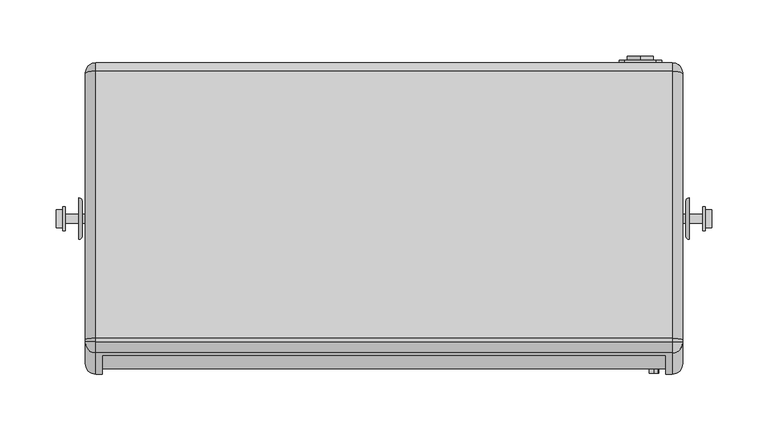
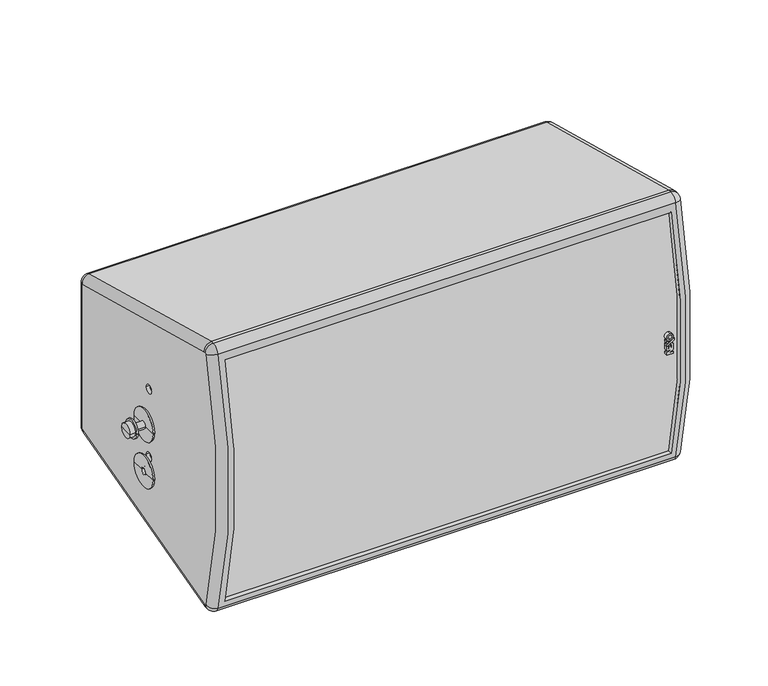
"""IFC4 building model written with IfcOpenShell, lengths in millimetres: proxy geometry, ePS10-HBRK535-SHM : ePS10-HBRK535-SHM."""

from ifc_helpers import new_model, si_unit, point, frame, frame_2d, origin, place, context, project, spatial, polyline, circle_curve, ellipse_curve, trimmed, segment, composite_curve, outline, extrude, source, transform, mapped, element, save
from ifc_brep_helpers import plane_surface, cylinder_surface, revolved_surface, advanced_brep


def generic_models_ff4268a7(model_context):
    return source(origin(), model_context, "Body", "SolidModel", [
        extrude(outline(polyline([(234.5649064, 236.0590531), (234.5649064, 243.3388202), (236.4572736, 243.3388202), (236.4572736, 239.1734899), (239.2323706, 243.3388202), (246.0832803, 243.3388202), (247.4018526, 241.463849), (246.3384755, 239.8643156), (244.9689329, 241.7361557), (241.9353036, 241.7361557), (241.9353036, 240.4818684), (244.2184164, 240.4818684), (244.2184164, 238.8791381), (241.9353036, 238.8791381), (241.9353036, 237.6626349), (244.3423782, 237.6626349), (244.3423782, 236.8626349), (243.8087195, 236.0599046), (239.5403435, 236.0599046), (239.5306519, 240.5099607), (236.5913857, 236.0590531), (234.5649064, 236.0590531)])), frame((0.0, -137.5, 0.0), z_axis=(0.0, 1.0, 0.0), x_axis=(0.0, 0.0, 1.0)), (0.0, 0.0, 1.0), 5.0),
        extrude(outline(polyline([(244.4500346, 236.0590531), (249.9286538, 244.3), (252.1218565, 244.3), (246.6432373, 236.0590531), (244.4500346, 236.0590531)])), frame((0.0, -137.5, 0.0), z_axis=(0.0, 1.0, 0.0), x_axis=(0.0, 0.0, 1.0)), (0.0, 0.0, 1.0), 5.0),
        extrude(outline(polyline([(251.1906687, 236.0590531), (248.8638781, 236.0590531), (248.1160838, 237.3270101), (249.2003096, 238.957904), (251.1906687, 236.0590531)])), frame((0.0, -137.5, 0.0), z_axis=(0.0, 1.0, 0.0), x_axis=(0.0, 0.0, 1.0)), (0.0, 0.0, 1.0), 5.0),
        extrude(outline(composite_curve([segment(trimmed(circle_curve(frame_2d((254.5762799, 239.7298911)), 3.9406238), [point((250.635656, 239.7298911))], [point((258.5169037, 239.7298911))], False, "CARTESIAN"), True, "CONTINUOUS"), segment(trimmed(circle_curve(frame_2d((254.5762799, 239.7298911)), 3.9406238), [point((258.5169037, 239.7298911))], [point((250.635656, 239.7298911))], False, "CARTESIAN"), True, "CONTINUOUS")], self_intersect=False), holes=[composite_curve([segment(trimmed(circle_curve(frame_2d((254.5762799, 239.7298911)), 2.0681078), [point((252.5081721, 239.7298911))], [point((256.6443876, 239.7298911))], True, "CARTESIAN"), True, "CONTINUOUS"), segment(trimmed(circle_curve(frame_2d((254.5762799, 239.7298911)), 2.0681078), [point((256.6443876, 239.7298911))], [point((252.5081721, 239.7298911))], True, "CARTESIAN"), True, "CONTINUOUS")], self_intersect=False)]), frame((0.0, -137.5, 0.0), z_axis=(0.0, 1.0, 0.0), x_axis=(0.0, 0.0, 1.0)), (0.0, 0.0, 1.0), 5.0),
        extrude(outline(composite_curve([segment(trimmed(circle_curve(frame_2d((276.5012591, 228.0)), 11.4515227), [point((287.9527818, 228.0))], [point((265.0497365, 228.0))], False, "CARTESIAN"), True, "CONTINUOUS"), segment(trimmed(circle_curve(frame_2d((276.5012591, 228.0)), 11.4515227), [point((265.0497365, 228.0))], [point((287.9527818, 228.0))], False, "CARTESIAN"), True, "CONTINUOUS")], self_intersect=False), holes=[composite_curve([segment(trimmed(circle_curve(frame_2d((276.5012591, 228.0)), 5.0), [point((281.5012591, 228.0))], [point((271.5012591, 228.0))], True, "CARTESIAN"), True, "CONTINUOUS"), segment(trimmed(circle_curve(frame_2d((276.5012591, 228.0)), 5.0), [point((271.5012591, 228.0))], [point((281.5012591, 228.0))], True, "CARTESIAN"), True, "CONTINUOUS")], self_intersect=False)]), frame((0.0, 141.0947354, 0.0), z_axis=(0.0, 1.0, 0.0), x_axis=(0.0, 0.0, 1.0)), (0.0, 0.0, 1.0), 3.4052646),
        extrude(outline(composite_curve([segment(trimmed(circle_curve(frame_2d((216.5012591, 228.0)), 11.4515227), [point((227.9527818, 228.0))], [point((205.0497365, 228.0))], False, "CARTESIAN"), True, "CONTINUOUS"), segment(trimmed(circle_curve(frame_2d((216.5012591, 228.0)), 11.4515227), [point((205.0497365, 228.0))], [point((227.9527818, 228.0))], False, "CARTESIAN"), True, "CONTINUOUS")], self_intersect=False), holes=[composite_curve([segment(trimmed(circle_curve(frame_2d((216.5012591, 228.0)), 5.0), [point((221.5012591, 228.0))], [point((211.5012591, 228.0))], True, "CARTESIAN"), True, "CONTINUOUS"), segment(trimmed(circle_curve(frame_2d((216.5012591, 228.0)), 5.0), [point((211.5012591, 228.0))], [point((221.5012591, 228.0))], True, "CARTESIAN"), True, "CONTINUOUS")], self_intersect=False)]), frame((0.0, 141.0947354, 0.0), z_axis=(0.0, 1.0, 0.0), x_axis=(0.0, 0.0, 1.0)), (0.0, 0.0, 1.0), 3.4052646),
        extrude(outline(composite_curve([segment(polyline([(299.5012591, 209.0), (193.5012591, 209.0)]), True, "CONTINUOUS"), segment(trimmed(circle_curve(frame_2d((193.5012591, 214.0)), 5.0), [point((193.5012591, 209.0))], [point((188.5012591, 214.0))], False, "CARTESIAN"), True, "CONTINUOUS"), segment(polyline([(188.5012591, 214.0), (188.5012591, 242.0)]), True, "CONTINUOUS"), segment(trimmed(circle_curve(frame_2d((193.5012591, 242.0)), 5.0), [point((188.5012591, 242.0))], [point((193.5012591, 247.0))], False, "CARTESIAN"), True, "CONTINUOUS"), segment(polyline([(193.5012591, 247.0), (299.5012591, 247.0)]), True, "CONTINUOUS"), segment(trimmed(circle_curve(frame_2d((299.5012591, 242.0)), 5.0), [point((299.5012591, 247.0))], [point((304.5012591, 242.0))], False, "CARTESIAN"), True, "CONTINUOUS"), segment(polyline([(304.5012591, 242.0), (304.5012591, 214.0)]), True, "CONTINUOUS"), segment(trimmed(circle_curve(frame_2d((299.5012591, 214.0)), 5.0), [point((304.5012591, 214.0))], [point((299.5012591, 209.0))], False, "CARTESIAN"), True, "CONTINUOUS")], self_intersect=False)), frame((0.0, 138.5947354, 0.0), z_axis=(0.0, 1.0, 0.0), x_axis=(0.0, 0.0, 1.0)), (0.0, 0.0, 1.0), 2.5),
        advanced_brep(
        [(-265.5, 129.6030121, 161.8288368), (-265.5, 128.8556966, 160.8549164), (-265.5, -107.6142599, 97.4929825), (-265.5, -109.6140822, 97.4929825), (-265.5, -110.5829021, 98.2219567), (-265.5, -110.5829021, 394.7805616), (-265.5, -109.6140822, 395.5095358), (-265.5, -107.6142599, 395.5095358), (-265.5, 128.8556966, 332.1476019), (-265.5, 129.6030121, 331.1736814), (-265.5, -5.0, 246.5012591), (-265.5, 5.0, 246.5012591), (-265.5, -5.0, 206.5012591), (-265.5, 5.0, 206.5012591), (-265.5, -5.0, 286.5012591), (-265.5, 5.0, 286.5012591), (265.5, 129.5947354, 331.1736814), (265.5, 128.8535545, 332.1396073), (265.5, -107.6153496, 395.5012591), (265.5, -109.6140822, 395.5012591), (265.5, -110.5749494, 394.7782689), (265.5, -110.5749494, 98.2242494), (265.5, -109.6140822, 97.5012591), (265.5, -107.6153496, 97.5012591), (265.5, 128.8535545, 160.862911), (265.5, 129.5947354, 161.8288368), (265.5, 5.0, 246.5012591), (265.5, -5.0, 246.5012591), (265.5, 5.0, 206.5012591), (265.5, -5.0, 206.5012591), (265.5, 5.0, 286.5012591), (265.5, -5.0, 286.5012591), (-261.5, 5.0, 246.5012591), (-261.5, -5.0, 246.5012591), (-261.5, 5.0, 206.5012591), (-261.5, -5.0, 206.5012591), (-261.5, 5.0, 286.5012591), (-261.5, -5.0, 286.5012591), (-250.5, -121.4005495, 103.5012591), (-250.5, -116.216713, 103.5012591), (-250.5, -116.216713, 389.5012591), (-250.5, -121.4005495, 389.5012591), (250.5, -121.4005495, 389.5012591), (250.5, -116.216713, 389.5012591), (250.5, -116.216713, 103.5012591), (250.5, -121.4005495, 103.5012591), (261.5, 5.0, 246.5012591), (261.5, -5.0, 246.5012591), (261.5, 5.0, 206.5012591), (261.5, -5.0, 206.5012591), (261.5, 5.0, 286.5012591), (261.5, -5.0, 286.5012591), (0.0, 132.5, 217.1579769), (0.0, 132.5, 205.8446565), (0.0, 132.5, 287.1579769), (0.0, 132.5, 275.8446565), (-70.0, 132.5, 217.1579769), (-70.0, 132.5, 205.8446565), (0.0, 138.5947354, 205.8446565), (0.0, 138.5947354, 217.1579769), (0.0, 138.5947354, 275.8446565), (0.0, 138.5947354, 287.1579769), (-256.5082766, 138.5947354, 161.8288368), (-256.5082766, 138.5947354, 331.1736814), (256.5, 138.5947354, 331.1736814), (256.5, 138.5947354, 161.8288368), (-70.0, 138.5947354, 205.8446565), (-70.0, 138.5947354, 217.1579769), (-256.5082766, 131.1829259, 152.1695786), (256.5, 131.1829259, 152.1695786), (-256.5082766, -106.4304771, 88.5012591), (256.5, -106.4304771, 88.5012591), (-256.5082766, -109.6140822, 88.5012591), (256.5, -109.6140822, 88.5012591), (-256.5082766, -119.2227534, 397.2713564), (-256.5082766, -119.2227534, 95.7311619), (256.500006, -119.2227534, 95.7311619), (256.5, -119.2227534, 397.2713564), (-256.5082766, -106.4304771, 404.5012591), (-256.5082766, -109.6140822, 404.5012591), (256.5, -109.6140822, 404.5012591), (256.5, -106.4304771, 404.5012591), (-256.5082766, 131.1829259, 340.8329397), (256.5, 131.1829259, 340.8329397)],
        [
            (0, 1, circle_curve(frame((-265.5, 128.5947354, 161.8288368), z_axis=(-1.0, 0.0, 0.0), x_axis=(0.0, 1.0, 0.0)), 1.0082766)),
            (1, 2),
            (2, 3),
            (3, 4, circle_curve(frame((-265.5, -109.6140822, 98.5012591), z_axis=(-1.0, 0.0, 0.0), x_axis=(0.0, 0.0, -1.0)), 1.0082766)),
            (4, 5, circle_curve(frame((-265.5, 403.7553714, 246.5012591), z_axis=(-1.0, 0.0, 0.0), x_axis=(0.0, -0.9608671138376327, -0.2770097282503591)), 535.2855417)),
            (5, 6, circle_curve(frame((-265.5, -109.6140822, 394.5012591), z_axis=(-1.0, 0.0, 0.0), x_axis=(0.0, -0.9608671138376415, 0.2770097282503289)), 1.0082766)),
            (6, 7),
            (7, 8),
            (8, 9, circle_curve(frame((-265.5, 128.5947354, 331.1736814), z_axis=(-1.0, 0.0, 0.0), x_axis=(0.0, 0.2588190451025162, 0.9659258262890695)), 1.0082766)),
            (9, 0),
            (10, 11, circle_curve(frame((-265.5, 0.0, 246.5012591), z_axis=(1.0, 0.0, 0.0), x_axis=(0.0, -1.0, 0.0)), 5.0)),
            (11, 10, circle_curve(frame((-265.5, 0.0, 246.5012591), z_axis=(1.0, 0.0, 0.0), x_axis=(0.0, -1.0, 0.0)), 5.0)),
            (12, 13, circle_curve(frame((-265.5, 0.0, 206.5012591), z_axis=(1.0, 0.0, 0.0), x_axis=(0.0, -1.0, 0.0)), 5.0)),
            (13, 12, circle_curve(frame((-265.5, 0.0, 206.5012591), z_axis=(1.0, 0.0, 0.0), x_axis=(0.0, -1.0, 0.0)), 5.0)),
            (14, 15, circle_curve(frame((-265.5, 0.0, 286.5012591), z_axis=(1.0, 0.0, 0.0), x_axis=(0.0, -1.0, 0.0)), 5.0)),
            (15, 14, circle_curve(frame((-265.5, 0.0, 286.5012591), z_axis=(1.0, 0.0, 0.0), x_axis=(0.0, -1.0, 0.0)), 5.0)),
            (16, 17, circle_curve(frame((265.5, 128.5947354, 331.1736814), z_axis=(1.0, 0.0, 0.0), x_axis=(0.0, 1.0, 0.0)), 1.0)),
            (17, 18),
            (18, 19),
            (19, 20, circle_curve(frame((265.5, -109.6140822, 394.5012591), z_axis=(1.0, 0.0, 0.0), x_axis=(0.0, 0.0, 1.0)), 1.0)),
            (20, 21, circle_curve(frame((265.5, 403.7553714, 246.5012591), z_axis=(1.0, 0.0, 0.0), x_axis=(0.0, -0.9608671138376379, 0.27700972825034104)), 535.277265)),
            (21, 22, circle_curve(frame((265.5, -109.6140822, 98.5012591), z_axis=(1.0, 0.0, 0.0), x_axis=(0.0, -0.9608671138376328, -0.27700972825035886)), 1.0)),
            (22, 23),
            (23, 24),
            (24, 25, circle_curve(frame((265.5, 128.5947354, 161.8288368), z_axis=(1.0, 0.0, 0.0), x_axis=(0.0, 0.2588190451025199, -0.9659258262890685)), 1.0)),
            (25, 16),
            (26, 27, circle_curve(frame((265.5, 0.0, 246.5012591), z_axis=(-1.0, 0.0, 0.0), x_axis=(0.0, -1.0, 0.0)), 5.0)),
            (27, 26, circle_curve(frame((265.5, 0.0, 246.5012591), z_axis=(-1.0, 0.0, 0.0), x_axis=(0.0, -1.0, 0.0)), 5.0)),
            (28, 29, circle_curve(frame((265.5, 0.0, 206.5012591), z_axis=(-1.0, 0.0, 0.0), x_axis=(0.0, -1.0, 0.0)), 5.0)),
            (29, 28, circle_curve(frame((265.5, 0.0, 206.5012591), z_axis=(-1.0, 0.0, 0.0), x_axis=(0.0, -1.0, 0.0)), 5.0)),
            (30, 31, circle_curve(frame((265.5, 0.0, 286.5012591), z_axis=(-1.0, 0.0, 0.0), x_axis=(0.0, -1.0, 0.0)), 5.0)),
            (31, 30, circle_curve(frame((265.5, 0.0, 286.5012591), z_axis=(-1.0, 0.0, 0.0), x_axis=(0.0, -1.0, 0.0)), 5.0)),
            (32, 33, circle_curve(frame((-261.5, 0.0, 246.5012591), z_axis=(-1.0, 0.0, 0.0), x_axis=(0.0, -1.0, 0.0)), 5.0)),
            (33, 32, circle_curve(frame((-261.5, 0.0, 246.5012591), z_axis=(-1.0, 0.0, 0.0), x_axis=(0.0, -1.0, 0.0)), 5.0)),
            (34, 35, circle_curve(frame((-261.5, 0.0, 206.5012591), z_axis=(-1.0, 0.0, 0.0), x_axis=(0.0, -1.0, 0.0)), 5.0)),
            (35, 34, circle_curve(frame((-261.5, 0.0, 206.5012591), z_axis=(-1.0, 0.0, 0.0), x_axis=(0.0, -1.0, 0.0)), 5.0)),
            (36, 37, circle_curve(frame((-261.5, 0.0, 286.5012591), z_axis=(-1.0, 0.0, 0.0), x_axis=(0.0, -1.0, 0.0)), 5.0)),
            (37, 36, circle_curve(frame((-261.5, 0.0, 286.5012591), z_axis=(-1.0, 0.0, 0.0), x_axis=(0.0, -1.0, 0.0)), 5.0)),
            (32, 11),
            (10, 33),
            (34, 13),
            (12, 35),
            (36, 15),
            (14, 37),
            (38, 39),
            (39, 40, circle_curve(frame((-250.5, 403.7553714, 246.5012591), z_axis=(-1.0, 0.0, 0.0), x_axis=(0.0, 0.0, 1.0)), 539.277265)),
            (40, 41),
            (41, 38, circle_curve(frame((-250.5, 403.7553714, 246.5012591), z_axis=(1.0, 0.0, 0.0), x_axis=(0.0, 0.0, 1.0)), 544.277265)),
            (42, 43),
            (43, 44, circle_curve(frame((250.5, 403.7553714, 246.5012591), z_axis=(1.0, 0.0, 0.0), x_axis=(0.0, 0.0, 1.0)), 539.277265)),
            (44, 45),
            (45, 42, circle_curve(frame((250.5, 403.7553714, 246.5012591), z_axis=(-1.0, 0.0, 0.0), x_axis=(0.0, 0.0, 1.0)), 544.277265)),
            (46, 47, circle_curve(frame((261.5, 0.0, 246.5012591), z_axis=(1.0, 0.0, 0.0), x_axis=(0.0, -1.0, 0.0)), 5.0)),
            (47, 46, circle_curve(frame((261.5, 0.0, 246.5012591), z_axis=(1.0, 0.0, 0.0), x_axis=(0.0, -1.0, 0.0)), 5.0)),
            (48, 49, circle_curve(frame((261.5, 0.0, 206.5012591), z_axis=(1.0, 0.0, 0.0), x_axis=(0.0, -1.0, 0.0)), 5.0)),
            (49, 48, circle_curve(frame((261.5, 0.0, 206.5012591), z_axis=(1.0, 0.0, 0.0), x_axis=(0.0, -1.0, 0.0)), 5.0)),
            (50, 51, circle_curve(frame((261.5, 0.0, 286.5012591), z_axis=(1.0, 0.0, 0.0), x_axis=(0.0, -1.0, 0.0)), 5.0)),
            (51, 50, circle_curve(frame((261.5, 0.0, 286.5012591), z_axis=(1.0, 0.0, 0.0), x_axis=(0.0, -1.0, 0.0)), 5.0)),
            (47, 27),
            (26, 46),
            (49, 29),
            (28, 48),
            (51, 31),
            (30, 50),
            (52, 53, circle_curve(frame((0.0, 132.5, 211.5013167), z_axis=(0.0, 1.0, 0.0), x_axis=(0.0, 0.0, -1.0)), 5.6566602)),
            (53, 52, circle_curve(frame((0.0, 132.5, 211.5013167), z_axis=(0.0, 1.0, 0.0), x_axis=(0.0, 0.0, -1.0)), 5.6566602)),
            (54, 55, circle_curve(frame((0.0, 132.5, 281.5013167), z_axis=(0.0, 1.0, 0.0), x_axis=(0.0, 0.0, -1.0)), 5.6566602)),
            (55, 54, circle_curve(frame((0.0, 132.5, 281.5013167), z_axis=(0.0, 1.0, 0.0), x_axis=(0.0, 0.0, -1.0)), 5.6566602)),
            (56, 57, circle_curve(frame((-70.0, 132.5, 211.5013167), z_axis=(0.0, 1.0, 0.0), x_axis=(0.0, 0.0, -1.0)), 5.6566602)),
            (57, 56, circle_curve(frame((-70.0, 132.5, 211.5013167), z_axis=(0.0, 1.0, 0.0), x_axis=(0.0, 0.0, -1.0)), 5.6566602)),
            (53, 58),
            (58, 59, circle_curve(frame((0.0, 138.5947354, 211.5013167), z_axis=(0.0, 1.0, 0.0), x_axis=(0.0, 0.0, -1.0)), 5.6566602)),
            (59, 52),
            (59, 58, circle_curve(frame((0.0, 138.5947354, 211.5013167), z_axis=(0.0, 1.0, 0.0), x_axis=(0.0, 0.0, -1.0)), 5.6566602)),
            (55, 60),
            (60, 61, circle_curve(frame((0.0, 138.5947354, 281.5013167), z_axis=(0.0, 1.0, 0.0), x_axis=(0.0, 0.0, -1.0)), 5.6566602)),
            (61, 54),
            (61, 60, circle_curve(frame((0.0, 138.5947354, 281.5013167), z_axis=(0.0, 1.0, 0.0), x_axis=(0.0, 0.0, -1.0)), 5.6566602)),
            (62, 63),
            (63, 64),
            (64, 65),
            (65, 62),
            (66, 67, circle_curve(frame((-70.0, 138.5947354, 211.5013167), z_axis=(0.0, -1.0, 0.0), x_axis=(0.0, 0.0, -1.0)), 5.6566602)),
            (67, 66, circle_curve(frame((-70.0, 138.5947354, 211.5013167), z_axis=(0.0, -1.0, 0.0), x_axis=(0.0, 0.0, -1.0)), 5.6566602)),
            (68, 62, circle_curve(frame((-256.5082766, 128.5947354, 161.8288368), z_axis=(1.0, 0.0, 0.0), x_axis=(0.0, 0.0, 1.0)), 10.0)),
            (65, 69, circle_curve(frame((256.5, 128.5947354, 161.8288368), z_axis=(-1.0, 0.0, 0.0), x_axis=(0.0, 0.0, 1.0)), 10.0)),
            (69, 68),
            (70, 68),
            (69, 71),
            (71, 70),
            (72, 70),
            (71, 73),
            (73, 72),
            (74, 75, circle_curve(frame((-256.5082766, 403.7553714, 246.5012591), z_axis=(1.0, 0.0, 0.0), x_axis=(0.0, 0.0, 1.0)), 544.277265)),
            (75, 76),
            (76, 77, circle_curve(frame((256.5, 403.7553714, 246.5012591), z_axis=(-1.0, 0.0, 0.0), x_axis=(0.0, 0.0, 1.0)), 544.277265)),
            (77, 74),
            (41, 42),
            (45, 38),
            (78, 79),
            (79, 80),
            (80, 81),
            (81, 78),
            (82, 78),
            (81, 83),
            (83, 82),
            (63, 82, circle_curve(frame((-256.5082766, 128.5947354, 331.1736814), z_axis=(1.0, 0.0, 0.0), x_axis=(0.0, 0.0, 1.0)), 10.0)),
            (83, 64, circle_curve(frame((256.5, 128.5947354, 331.1736814), z_axis=(-1.0, 0.0, 0.0), x_axis=(0.0, 0.0, 1.0)), 10.0)),
            (75, 72, circle_curve(frame((-256.5082766, -109.6140822, 98.5012591), z_axis=(1.0, 0.0, 0.0), x_axis=(0.0, 0.0, 1.0)), 10.0)),
            (73, 76, circle_curve(frame((256.5, -109.6140822, 98.5012591), z_axis=(-1.0, 0.0, 0.0), x_axis=(0.0, 0.0, 1.0)), 10.0)),
            (79, 74, circle_curve(frame((-256.5082766, -109.6140822, 394.5012591), z_axis=(1.0, 0.0, 0.0), x_axis=(0.0, 0.0, 1.0)), 10.0)),
            (77, 80, circle_curve(frame((256.5, -109.6140822, 394.5012591), z_axis=(-1.0, 0.0, 0.0), x_axis=(0.0, 0.0, 1.0)), 10.0)),
            (56, 67),
            (66, 57),
            (40, 43),
            (39, 44),
            (68, 1, circle_curve(frame((-256.5082766, 128.8556966, 160.8549164), z_axis=(0.0, 0.9659258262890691, 0.2588190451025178), x_axis=(0.0, -0.2588190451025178, 0.9659258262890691)), 8.9917234)),
            (0, 62, circle_curve(frame((-256.5082766, 129.6030121, 161.8288368), z_axis=(0.0, 0.0, -1.0), x_axis=(0.0, -1.0, 0.0)), 8.9917234)),
            (70, 2, ellipse_curve(frame((-256.5082766, -107.6142599, 97.4929825), z_axis=(0.0, 0.9914448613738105, 0.13052619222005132), x_axis=(0.0, 0.13052619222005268, -0.9914448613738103)), 9.0693126, 8.9917234)),
            (72, 3, circle_curve(frame((-256.5082766, -109.6140822, 97.4929825), z_axis=(0.0, 1.0, 0.0), x_axis=(0.0, 0.0, 1.0)), 8.9917234)),
            (75, 4, circle_curve(frame((-256.5082766, -110.5829021, 98.2219567), z_axis=(0.0, 0.2770097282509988, -0.9608671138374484), x_axis=(0.0, 0.9608671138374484, 0.2770097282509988)), 8.9917234)),
            (74, 5, circle_curve(frame((-256.5082766, -110.5829021, 394.7805616), z_axis=(0.0, -0.27700972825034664, -0.9608671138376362), x_axis=(0.0, 0.9608671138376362, -0.27700972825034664)), 8.9917234)),
            (79, 6, circle_curve(frame((-256.5082766, -109.6140822, 395.5095358), z_axis=(0.0, -1.0, 0.0), x_axis=(0.0, 0.0, -1.0)), 8.9917234)),
            (78, 7, ellipse_curve(frame((-256.5082766, -107.6142599, 395.5095358), z_axis=(0.0, -0.991444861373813, 0.1305261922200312), x_axis=(0.0, 0.13052619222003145, 0.991444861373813)), 9.0693126, 8.9917234)),
            (82, 8, circle_curve(frame((-256.5082766, 128.8556966, 332.1476019), z_axis=(0.0, -0.9659258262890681, 0.2588190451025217), x_axis=(0.0, -0.2588190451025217, -0.9659258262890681)), 8.9917234)),
            (63, 9, circle_curve(frame((-256.5082766, 129.6030121, 331.1736814), z_axis=(0.0, 0.0, 1.0), x_axis=(0.0, -1.0, 0.0)), 8.9917234)),
            (83, 17, circle_curve(frame((256.5, 128.8535545, 332.1396073), z_axis=(0.0, 0.9659258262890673, -0.2588190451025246), x_axis=(0.0, -0.2588190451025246, -0.9659258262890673)), 9.0)),
            (16, 64, circle_curve(frame((256.5, 129.5947354, 331.1736814), z_axis=(0.0, 0.0, 1.0), x_axis=(0.0, -1.0, 0.0)), 9.0)),
            (81, 18, ellipse_curve(frame((256.5, -107.6153496, 395.5012591), z_axis=(0.0, 0.991444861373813, -0.1305261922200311), x_axis=(0.0, 0.1305261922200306, 0.991444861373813)), 9.0776606, 9.0)),
            (80, 19, circle_curve(frame((256.5, -109.6140822, 395.5012591), z_axis=(0.0, 1.0, 0.0), x_axis=(0.0, 0.0, -1.0)), 9.0)),
            (77, 20, circle_curve(frame((256.5, -110.5749494, 394.7782689), z_axis=(0.0, 0.27700972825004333, 0.9608671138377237), x_axis=(0.0, 0.9608671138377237, -0.27700972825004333)), 9.0)),
            (76, 21, circle_curve(frame((256.5, -110.5749494, 98.2242494), z_axis=(0.0, -0.277009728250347, 0.9608671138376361), x_axis=(0.0, 0.9608671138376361, 0.277009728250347)), 9.0)),
            (73, 22, circle_curve(frame((256.5, -109.6140822, 97.5012591), z_axis=(0.0, -1.0, 0.0), x_axis=(0.0, 0.0, 1.0)), 9.0)),
            (71, 23, ellipse_curve(frame((256.5, -107.6153496, 97.5012591), z_axis=(0.0, -0.9914448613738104, -0.13052619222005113), x_axis=(0.0, 0.13052619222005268, -0.9914448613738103)), 9.0776606, 9.0)),
            (69, 24, circle_curve(frame((256.5, 128.8535545, 160.862911), z_axis=(0.0, -0.9659258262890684, -0.2588190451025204), x_axis=(0.0, -0.2588190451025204, 0.9659258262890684)), 9.0)),
            (65, 25, circle_curve(frame((256.5, 129.5947354, 161.8288368), z_axis=(0.0, 0.0, -1.0000000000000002), x_axis=(0.0, -1.0000000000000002, 0.0)), 9.0)),
        ],
        [
            plane_surface(frame((-265.5, 138.5947354, 161.4451734), z_axis=(-1.0, 0.0, 0.0), x_axis=(0.0, 0.0, -1.0))),
            plane_surface(frame((265.5, 138.5947354, 161.4451734), z_axis=(1.0, 0.0, 0.0), x_axis=(0.0, 0.0, 1.0))),
            plane_surface(frame((-261.5, -5.0, 246.5012591), z_axis=(-1.0, 0.0, 0.0), x_axis=(0.0, 0.0, -1.0))),
            revolved_surface(polyline([(-265.5, -5.0, 246.5012591), (-261.5, -5.0, 246.5012591)]), (-261.5, 0.0, 246.5012591), (-1.0, 0.0, 0.0)),
            revolved_surface(polyline([(-265.5, -5.0, 206.5012591), (-261.5, -5.0, 206.5012591)]), (-265.5, 0.0, 206.5012591), (-1.0, 0.0, 0.0)),
            revolved_surface(polyline([(-265.5, -5.0, 286.5012591), (-261.5, -5.0, 286.5012591)]), (-265.5, 0.0, 286.5012591), (-1.0, 0.0, 0.0)),
            plane_surface(frame((-250.5, -186.7599178, 389.5012591), z_axis=(1.0, 0.0, 0.0), x_axis=(0.0, 1.0, 0.0))),
            plane_surface(frame((250.5, -186.7599178, 389.5012591), z_axis=(-1.0, 0.0, 0.0), x_axis=(0.0, -1.0, 0.0))),
            plane_surface(frame((261.5, -5.0, 246.5012591), z_axis=(1.0, 0.0, 0.0), x_axis=(0.0, 0.0, 1.0))),
            revolved_surface(polyline([(261.5, -5.0, 246.5012591), (265.5, -5.0, 246.5012591)]), (269.5, 0.0, 246.5012591), (-1.0, 0.0, 0.0)),
            revolved_surface(polyline([(261.5, -5.0, 206.5012591), (265.5, -5.0, 206.5012591)]), (265.5, 0.0, 206.5012591), (-1.0, 0.0, 0.0)),
            revolved_surface(polyline([(261.5, -5.0, 286.5012591), (265.5, -5.0, 286.5012591)]), (265.5, 0.0, 286.5012591), (-1.0, 0.0, 0.0)),
            plane_surface(frame((0.0, 132.5, 205.8446565), z_axis=(0.0, 1.0, 0.0), x_axis=(1.0, 0.0, 0.0))),
            revolved_surface(polyline([(0.0, 138.5947354, 205.84465649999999), (0.0, 132.5, 205.84465649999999)]), (0.0, 132.5, 211.5013167), (0.0, 1.0, 0.0)),
            revolved_surface(polyline([(0.0, 138.5947354, 275.84465650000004), (0.0, 132.5, 275.84465650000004)]), (0.0, 144.5, 281.5013167), (0.0, 1.0, 0.0)),
            plane_surface(frame((-265.5, 138.5947354, 331.1736814), z_axis=(0.0, 1.0, 0.0), x_axis=(1.0, 0.0, 0.0))),
            cylinder_surface(frame((265.5, 128.5947354, 161.8288368), z_axis=(-1.0, 0.0, 0.0), x_axis=(0.0, 0.0, 1.0)), 10.0),
            plane_surface(frame((-265.5, 131.1829259, 152.1695786), z_axis=(0.0, 0.2588190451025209, -0.9659258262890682), x_axis=(1.0, 0.0, 0.0))),
            plane_surface(frame((-265.5, -106.4304771, 88.5012591), z_axis=(0.0, 0.0, -1.0), x_axis=(1.0, 0.0, 0.0))),
            cylinder_surface(frame((265.5, 403.7553714, 246.5012591), z_axis=(-1.0, 0.0, 0.0), x_axis=(0.0, 0.0, 1.0)), 544.277265),
            plane_surface(frame((-265.5, -109.6140822, 404.5012591), z_axis=(0.0, 0.0, 1.0), x_axis=(1.0, 0.0, 0.0))),
            plane_surface(frame((-265.5, -106.4304771, 404.5012591), z_axis=(0.0, 0.25881904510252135, 0.9659258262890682), x_axis=(1.0, 0.0, 0.0))),
            cylinder_surface(frame((265.5, 128.5947354, 331.1736814), z_axis=(-1.0, 0.0, 0.0), x_axis=(0.0, 0.0, 1.0)), 10.0),
            cylinder_surface(frame((265.5, -109.6140822, 98.5012591), z_axis=(-1.0, 0.0, 0.0), x_axis=(0.0, 0.0, 1.0)), 10.0),
            cylinder_surface(frame((265.5, -109.6140822, 394.5012591), z_axis=(-1.0, 0.0, 0.0), x_axis=(0.0, 0.0, 1.0)), 10.0),
            revolved_surface(polyline([(-70.0, 138.5947354, 205.84465649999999), (-70.0, 132.5, 205.84465649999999)]), (-70.0, 144.5, 211.5013167), (0.0, 1.0, 0.0)),
            plane_surface(frame((-250.5, -121.4005495, 389.5012591), z_axis=(0.0, 0.0, -1.0), x_axis=(1.0, 0.0, 0.0))),
            cylinder_surface(frame((250.5, 403.7553714, 246.5012591), z_axis=(1.0, 0.0, 0.0), x_axis=(0.0, 0.0, 1.0)), 539.277265),
            plane_surface(frame((-250.5, -116.216713, 103.5012591), z_axis=(0.0, 0.0, 1.0), x_axis=(1.0, 0.0, 0.0))),
            revolved_surface(trimmed(ellipse_curve(frame((-256.5082766, 129.6030121, 161.8288368), z_axis=(0.0, 0.0, 1.0), x_axis=(0.0, -1.0, 0.0)), 8.9917234, 8.9917234), [point((-256.5082766, 138.5947354, 161.8288368))], [point((-265.5, 129.6030121, 161.8288368))], True, "CARTESIAN"), (-265.5, 128.5947354, 161.8288368), (-1.0, 0.0, 0.0)),
            cylinder_surface(frame((-256.5082766, 128.8556966, 160.8549164), z_axis=(0.0, -0.9659258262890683, -0.2588190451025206), x_axis=(0.0, -0.2588190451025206, 0.9659258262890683)), 8.9917234),
            cylinder_surface(frame((-256.5082766, -106.4304771, 97.4929825), z_axis=(0.0, -1.0, 0.0), x_axis=(0.0, 0.0, 1.0)), 8.9917234),
            revolved_surface(trimmed(ellipse_curve(frame((-256.5082766, -109.6140822, 97.4929825), z_axis=(0.0, 1.0, 0.0), x_axis=(0.0, 0.0, 1.0)), 8.9917234, 8.9917234), [point((-256.5082766, -109.6140822, 88.5012591))], [point((-265.5, -109.6140822, 97.4929825))], True, "CARTESIAN"), (-265.5, -109.6140822, 98.5012591), (-1.0, 0.0, 0.0)),
            revolved_surface(trimmed(ellipse_curve(frame((-256.5082766, -110.5829021, 98.2219567), z_axis=(0.0, 0.2770097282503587, -0.9608671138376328), x_axis=(0.0, 0.9608671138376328, 0.2770097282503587)), 8.9917234, 8.9917234), [point((-256.5082766, -119.2227534, 95.7311619))], [point((-265.5, -110.5829021, 98.2219567))], True, "CARTESIAN"), (-265.5, 403.7553714, 246.5012591), (-1.0, 0.0, 0.0)),
            revolved_surface(trimmed(ellipse_curve(frame((-256.5082766, -110.5829021, 394.7805616), z_axis=(0.0, -0.2770097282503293, -0.9608671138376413), x_axis=(0.0, 0.9608671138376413, -0.2770097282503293)), 8.9917234, 8.9917234), [point((-256.5082766, -119.2227534, 397.2713564))], [point((-265.5, -110.5829021, 394.7805616))], True, "CARTESIAN"), (-265.5, -109.6140822, 394.5012591), (-1.0, 0.0, 0.0)),
            cylinder_surface(frame((-256.5082766, -109.6140822, 395.5095358), z_axis=(0.0, 1.0, 0.0), x_axis=(0.0, 0.0, -1.0)), 8.9917234),
            cylinder_surface(frame((-256.5082766, -108.7577064, 395.8159213), z_axis=(0.0, 0.9659258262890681, -0.2588190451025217), x_axis=(0.0, -0.2588190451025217, -0.9659258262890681)), 8.9917234),
            revolved_surface(trimmed(ellipse_curve(frame((-256.5082766, 128.8556966, 332.1476019), z_axis=(0.0, -0.9659258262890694, 0.2588190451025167), x_axis=(0.0, -0.2588190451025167, -0.9659258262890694)), 8.9917234, 8.9917234), [point((-256.5082766, 131.1829259, 340.8329397))], [point((-265.5, 128.8556966, 332.1476019))], True, "CARTESIAN"), (-265.5, 128.5947354, 331.1736814), (-1.0, 0.0, 0.0)),
            cylinder_surface(frame((-256.5082766, 129.6030121, 331.1736814), z_axis=(0.0, 0.0, -1.0), x_axis=(0.0, -1.0, 0.0)), 8.9917234),
            revolved_surface(trimmed(ellipse_curve(frame((256.5, 129.5947354, 331.1736814), z_axis=(0.0, 0.0, -1.0), x_axis=(0.0, -1.0, 0.0)), 9.0, 9.0), [point((256.5, 138.5947354, 331.1736814))], [point((265.5, 129.5947354, 331.1736814))], True, "CARTESIAN"), (265.5, 128.5947354, 331.1736814), (1.0, 0.0, 0.0)),
            cylinder_surface(frame((256.5, 128.8535545, 332.1396073), z_axis=(0.0, -0.9659258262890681, 0.25881904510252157), x_axis=(0.0, -0.25881904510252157, -0.9659258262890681)), 9.0),
            cylinder_surface(frame((256.5, -106.4304771, 395.5012591), z_axis=(0.0, -1.0, 0.0), x_axis=(0.0, 0.0, -1.0)), 9.0),
            revolved_surface(trimmed(ellipse_curve(frame((256.5, -109.6140822, 395.5012591), z_axis=(0.0, 1.0, 0.0), x_axis=(0.0, 0.0, -1.0)), 9.0, 9.0), [point((256.5, -109.6140822, 404.5012591))], [point((265.5, -109.6140822, 395.5012591))], True, "CARTESIAN"), (265.5, -109.6140822, 394.5012591), (1.0, 0.0, 0.0)),
            revolved_surface(trimmed(ellipse_curve(frame((256.5, -110.5749494, 394.7782689), z_axis=(0.0, 0.2770097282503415, 0.9608671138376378), x_axis=(0.0, 0.9608671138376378, -0.2770097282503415)), 9.0, 9.0), [point((256.5, -119.2227534, 397.2713564))], [point((265.5, -110.5749494, 394.7782689))], True, "CARTESIAN"), (265.5, 403.7553714, 246.5012591), (1.0, 0.0, 0.0)),
            revolved_surface(trimmed(ellipse_curve(frame((256.5, -110.5749494, 98.2242494), z_axis=(0.0, -0.2770097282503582, 0.960867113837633), x_axis=(0.0, 0.960867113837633, 0.2770097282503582)), 9.0, 9.0), [point((256.5, -119.2227534, 95.7311619))], [point((265.5, -110.5749494, 98.2242494))], True, "CARTESIAN"), (265.5, -109.6140822, 98.5012591), (1.0, 0.0, 0.0)),
            cylinder_surface(frame((256.5, -109.6140822, 97.5012591), z_axis=(0.0, 1.0, 0.0), x_axis=(0.0, 0.0, 1.0)), 9.0),
            cylinder_surface(frame((256.5, -108.7598485, 97.1945916), z_axis=(0.0, 0.9659258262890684, 0.2588190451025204), x_axis=(0.0, -0.2588190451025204, 0.9659258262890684)), 9.0),
            revolved_surface(trimmed(ellipse_curve(frame((256.5, 128.8535545, 160.862911), z_axis=(0.0, -0.9659258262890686, -0.2588190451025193), x_axis=(0.0, -0.2588190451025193, 0.9659258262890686)), 9.0, 9.0), [point((256.5, 131.1829259, 152.1695786))], [point((265.5, 128.8535545, 160.862911))], True, "CARTESIAN"), (265.5, 128.5947354, 161.8288368), (1.0, 0.0, 0.0)),
            cylinder_surface(frame((256.5, 129.5947354, 161.8288368), z_axis=(0.0, 0.0, 1.0), x_axis=(0.0, -1.0, 0.0)), 9.0),
        ],
        [
            (0, [[1, 2, 3, 4, 5, 6, 7, 8, 9, 10], [11, 12], [13, 14], [15, 16]]),
            (1, [[17, 18, 19, 20, 21, 22, 23, 24, 25, 26], [27, 28], [29, 30], [31, 32]]),
            (2, [[33, 34]]),
            (2, [[35, 36]]),
            (2, [[37, 38]]),
            (3, [[-33, 39, -11, 40]]),
            (3, [[-34, -40, -12, -39]]),
            (4, [[-35, 41, -13, 42]]),
            (4, [[-36, -42, -14, -41]]),
            (5, [[-37, 43, -15, 44]]),
            (5, [[-38, -44, -16, -43]]),
            (6, [[45, 46, 47, 48]]),
            (7, [[49, 50, 51, 52]]),
            (8, [[53, 54]]),
            (8, [[55, 56]]),
            (8, [[57, 58]]),
            (9, [[-54, 59, -27, 60]]),
            (9, [[-53, -60, -28, -59]]),
            (10, [[-56, 61, -29, 62]]),
            (10, [[-55, -62, -30, -61]]),
            (11, [[-58, 63, -31, 64]]),
            (11, [[-57, -64, -32, -63]]),
            (12, [[65, 66]]),
            (12, [[67, 68]]),
            (12, [[69, 70]]),
            (13, [[-66, 71, 72, 73]]),
            (13, [[-65, -73, 74, -71]]),
            (14, [[-68, 75, 76, 77]]),
            (14, [[-67, -77, 78, -75]]),
            (15, [[79, 80, 81, 82], [-72, -74], [-76, -78], [83, 84]]),
            (16, [[85, -82, 86, 87]]),
            (17, [[88, -87, 89, 90]]),
            (18, [[91, -90, 92, 93]]),
            (19, [[94, 95, 96, 97], [-48, 98, -52, 99]]),
            (20, [[100, 101, 102, 103]]),
            (21, [[104, -103, 105, 106]]),
            (22, [[107, -106, 108, -80]]),
            (23, [[109, -93, 110, -95]]),
            (24, [[111, -97, 112, -101]]),
            (25, [[-69, 113, -83, 114]]),
            (25, [[-70, -114, -84, -113]]),
            (26, [[-47, 115, -49, -98]]),
            (27, [[-46, 116, -50, -115]]),
            (28, [[-45, -99, -51, -116]]),
            (29, [[117, -1, 118, -85]]),
            (30, [[-117, -88, 119, -2]]),
            (31, [[-119, -91, 120, -3]]),
            (32, [[-120, -109, 121, -4]]),
            (33, [[-121, -94, 122, -5]]),
            (34, [[-122, -111, 123, -6]]),
            (35, [[-123, -100, 124, -7]]),
            (36, [[-124, -104, 125, -8]]),
            (37, [[-125, -107, 126, -9]]),
            (38, [[-118, -10, -126, -79]]),
            (39, [[127, -17, 128, -108]]),
            (40, [[-127, -105, 129, -18]]),
            (41, [[-129, -102, 130, -19]]),
            (42, [[-130, -112, 131, -20]]),
            (43, [[-131, -96, 132, -21]]),
            (44, [[-132, -110, 133, -22]]),
            (45, [[-133, -92, 134, -23]]),
            (46, [[-134, -89, 135, -24]]),
            (47, [[-135, -86, 136, -25]]),
            (48, [[-128, -26, -136, -81]]),
        ],
    ),
        advanced_brep(
        [(271.5, 3.972567, 191.5012591), (271.5, 18.442415, 191.5012591), (271.5, -18.442415, 191.5012591), (271.5, -3.972567, 191.5012591), (268.5, 15.442415, 191.5012591), (268.5, -15.442415, 191.5012591), (268.5, 3.972567, 191.5012591), (268.5, -3.972567, 191.5012591)],
        [
            (0, 1),
            (1, 2, circle_curve(frame((271.5, 0.0, 191.5012591), z_axis=(1.0, 0.0, 0.0), x_axis=(0.0, -1.0, 0.0)), 18.442415)),
            (2, 3),
            (3, 0, circle_curve(frame((271.5, 0.0, 191.5012591), z_axis=(-1.0, 0.0, 0.0), x_axis=(0.0, -1.0, 0.0)), 3.972567)),
            (2, 1, circle_curve(frame((271.5, 0.0, 191.5012591), z_axis=(1.0, 0.0, 0.0), x_axis=(0.0, -1.0, 0.0)), 18.442415)),
            (0, 3, circle_curve(frame((271.5, 0.0, 191.5012591), z_axis=(-1.0, 0.0, 0.0), x_axis=(0.0, -1.0, 0.0)), 3.972567)),
            (1, 4, circle_curve(frame((271.5, 15.442415, 191.5012591), z_axis=(0.0, 0.0, 1.0), x_axis=(-1.0, 0.0, 0.0)), 3.0)),
            (4, 5, circle_curve(frame((268.5, 0.0, 191.5012591), z_axis=(1.0, 0.0, 0.0), x_axis=(0.0, -1.0, 0.0)), 15.442415)),
            (5, 2, circle_curve(frame((271.5, -15.442415, 191.5012591), z_axis=(0.0, 0.0, 1.0), x_axis=(-1.0, 0.0, 0.0)), 3.0)),
            (5, 4, circle_curve(frame((268.5, 0.0, 191.5012591), z_axis=(1.0, 0.0, 0.0), x_axis=(0.0, -1.0, 0.0)), 15.442415)),
            (4, 6),
            (6, 7, circle_curve(frame((268.5, 0.0, 191.5012591), z_axis=(1.0, 0.0, 0.0), x_axis=(0.0, -1.0, 0.0)), 3.972567)),
            (7, 5),
            (7, 6, circle_curve(frame((268.5, 0.0, 191.5012591), z_axis=(1.0, 0.0, 0.0), x_axis=(0.0, -1.0, 0.0)), 3.972567)),
            (6, 0),
            (3, 7),
        ],
        [
            plane_surface(frame((271.5, 0.0, 191.5012591), z_axis=(1.0, 0.0, 0.0), x_axis=(0.0, -1.0, 0.0))),
            revolved_surface(trimmed(ellipse_curve(frame((271.5, -15.442415, 191.5012591), z_axis=(0.0, 0.0, 1.0), x_axis=(-1.0, 0.0, 0.0)), 3.0, 3.0), [point((268.5, -15.442415, 191.5012591))], [point((271.5, -18.442415, 191.5012591))], True, "CARTESIAN"), (258.7578639, 0.0, 191.5012591), (1.0, 0.0, 0.0)),
            plane_surface(frame((268.5, 0.0, 191.5012591), z_axis=(-1.0, 0.0, 0.0), x_axis=(0.0, -1.0, 0.0))),
            revolved_surface(polyline([(271.5, -3.972567, 191.5012591), (268.5, -3.972567, 191.5012591)]), (258.7578639, 0.0, 191.5012591), (1.0, 0.0, 0.0)),
        ],
        [
            (0, [[1, 2, 3, 4]]),
            (0, [[-3, 5, -1, 6]]),
            (1, [[7, 8, 9, -2]]),
            (1, [[-9, 10, -7, -5]]),
            (2, [[11, 12, 13, -8]]),
            (2, [[-13, 14, -11, -10]]),
            (3, [[15, -4, 16, -12]]),
            (3, [[-16, -6, -15, -14]]),
        ],
    ),
        advanced_brep(
        [(-271.5, 18.442415, 191.5012591), (-271.5, 3.972567, 191.5012591), (-271.5, -3.972567, 191.5012591), (-271.5, -18.442415, 191.5012591), (-268.5, 15.442415, 191.5012591), (-268.5, -15.442415, 191.5012591), (-268.5, 3.972567, 191.5012591), (-268.5, -3.972567, 191.5012591)],
        [
            (0, 1),
            (1, 2, circle_curve(frame((-271.5, 0.0, 191.5012591), z_axis=(1.0, 0.0, 0.0), x_axis=(0.0, -1.0, 0.0)), 3.972567)),
            (2, 3),
            (3, 0, circle_curve(frame((-271.5, 0.0, 191.5012591), z_axis=(-1.0, 0.0, 0.0), x_axis=(0.0, -1.0, 0.0)), 18.442415)),
            (2, 1, circle_curve(frame((-271.5, 0.0, 191.5012591), z_axis=(1.0, 0.0, 0.0), x_axis=(0.0, -1.0, 0.0)), 3.972567)),
            (0, 3, circle_curve(frame((-271.5, 0.0, 191.5012591), z_axis=(-1.0, 0.0, 0.0), x_axis=(0.0, -1.0, 0.0)), 18.442415)),
            (4, 0, circle_curve(frame((-271.5, 15.442415, 191.5012591), z_axis=(0.0, 0.0, 1.0), x_axis=(1.0, 0.0, 0.0)), 3.0)),
            (3, 5, circle_curve(frame((-271.5, -15.442415, 191.5012591), z_axis=(0.0, 0.0, 1.0), x_axis=(1.0, 0.0, 0.0)), 3.0)),
            (5, 4, circle_curve(frame((-268.5, 0.0, 191.5012591), z_axis=(-1.0, 0.0, 0.0), x_axis=(0.0, -1.0, 0.0)), 15.442415)),
            (4, 5, circle_curve(frame((-268.5, 0.0, 191.5012591), z_axis=(-1.0, 0.0, 0.0), x_axis=(0.0, -1.0, 0.0)), 15.442415)),
            (6, 4),
            (5, 7),
            (7, 6, circle_curve(frame((-268.5, 0.0, 191.5012591), z_axis=(-1.0, 0.0, 0.0), x_axis=(0.0, -1.0, 0.0)), 3.972567)),
            (6, 7, circle_curve(frame((-268.5, 0.0, 191.5012591), z_axis=(-1.0, 0.0, 0.0), x_axis=(0.0, -1.0, 0.0)), 3.972567)),
            (1, 6),
            (7, 2),
        ],
        [
            plane_surface(frame((-271.5, 0.0, 191.5012591), z_axis=(-1.0, 0.0, 0.0), x_axis=(0.0, -1.0, 0.0))),
            revolved_surface(trimmed(ellipse_curve(frame((-271.5, -15.442415, 191.5012591), z_axis=(0.0, 0.0, 1.0), x_axis=(1.0, 0.0, 0.0)), 3.0, 3.0), [point((-271.5, -18.442415, 191.5012591))], [point((-268.5, -15.442415, 191.5012591))], True, "CARTESIAN"), (-258.7578639, 0.0, 191.5012591), (1.0, 0.0, 0.0)),
            plane_surface(frame((-268.5, 0.0, 191.5012591), z_axis=(1.0, 0.0, 0.0), x_axis=(0.0, -1.0, 0.0))),
            revolved_surface(polyline([(-268.5, -3.972567, 191.5012591), (-271.5, -3.972567, 191.5012591)]), (-258.7578639, 0.0, 191.5012591), (1.0, 0.0, 0.0)),
        ],
        [
            (0, [[1, 2, 3, 4]]),
            (0, [[-3, 5, -1, 6]]),
            (1, [[7, -4, 8, 9]]),
            (1, [[-8, -6, -7, 10]]),
            (2, [[11, -9, 12, 13]]),
            (2, [[-12, -10, -11, 14]]),
            (3, [[15, -13, 16, -2]]),
            (3, [[-16, -14, -15, -5]]),
        ],
    ),
        advanced_brep(
        [(271.5, 4.0553577, 246.5012591), (271.5, 18.442415, 246.5012591), (271.5, -18.442415, 246.5012591), (271.5, -4.0553577, 246.5012591), (268.5, 15.442415, 246.5012591), (268.5, -15.442415, 246.5012591), (268.5, 4.0553577, 246.5012591), (268.5, -4.0553577, 246.5012591), (265.5, 4.0553577, 246.5012591), (265.5, -4.0553577, 246.5012591), (265.5, 0.0, 246.5012591), (291.5, 0.0, 246.5012591), (291.5, 8.0750303, 246.5012591), (291.5, -8.0750303, 246.5012591), (285.5, 8.0750303, 246.5012591), (285.5, -8.0750303, 246.5012591), (285.5, 10.555922, 246.5012591), (285.5, -10.555922, 246.5012591), (283.5, 10.555922, 246.5012591), (283.5, -10.555922, 246.5012591), (283.5, 4.0553577, 246.5012591), (283.5, -4.0553577, 246.5012591)],
        [
            (0, 1),
            (1, 2, circle_curve(frame((271.5, 0.0, 246.5012591), z_axis=(1.0, 0.0, 0.0), x_axis=(0.0, -1.0, 0.0)), 18.442415)),
            (2, 3),
            (3, 0, circle_curve(frame((271.5, 0.0, 246.5012591), z_axis=(-1.0, 0.0, 0.0), x_axis=(0.0, -1.0, 0.0)), 4.0553577)),
            (2, 1, circle_curve(frame((271.5, 0.0, 246.5012591), z_axis=(1.0, 0.0, 0.0), x_axis=(0.0, -1.0, 0.0)), 18.442415)),
            (0, 3, circle_curve(frame((271.5, 0.0, 246.5012591), z_axis=(-1.0, 0.0, 0.0), x_axis=(0.0, -1.0, 0.0)), 4.0553577)),
            (1, 4, circle_curve(frame((271.5, 15.442415, 246.5012591), z_axis=(0.0, 0.0, 1.0), x_axis=(-1.0, 0.0, 0.0)), 3.0)),
            (4, 5, circle_curve(frame((268.5, 0.0, 246.5012591), z_axis=(1.0, 0.0, 0.0), x_axis=(0.0, -1.0, 0.0)), 15.442415)),
            (5, 2, circle_curve(frame((271.5, -15.442415, 246.5012591), z_axis=(0.0, 0.0, 1.0), x_axis=(-1.0, 0.0, 0.0)), 3.0)),
            (5, 4, circle_curve(frame((268.5, 0.0, 246.5012591), z_axis=(1.0, 0.0, 0.0), x_axis=(0.0, -1.0, 0.0)), 15.442415)),
            (4, 6),
            (6, 7, circle_curve(frame((268.5, 0.0, 246.5012591), z_axis=(1.0, 0.0, 0.0), x_axis=(0.0, -1.0, 0.0)), 4.0553577)),
            (7, 5),
            (7, 6, circle_curve(frame((268.5, 0.0, 246.5012591), z_axis=(1.0, 0.0, 0.0), x_axis=(0.0, -1.0, 0.0)), 4.0553577)),
            (6, 8),
            (8, 9, circle_curve(frame((265.5, 0.0, 246.5012591), z_axis=(1.0, 0.0, 0.0), x_axis=(0.0, -1.0, 0.0)), 4.0553577)),
            (9, 7),
            (9, 8, circle_curve(frame((265.5, 0.0, 246.5012591), z_axis=(1.0, 0.0, 0.0), x_axis=(0.0, -1.0, 0.0)), 4.0553577)),
            (8, 10),
            (10, 9),
            (11, 12),
            (12, 13, circle_curve(frame((291.5, 0.0, 246.5012591), z_axis=(1.0, 0.0, 0.0), x_axis=(0.0, -1.0, 0.0)), 8.0750303)),
            (13, 11),
            (13, 12, circle_curve(frame((291.5, 0.0, 246.5012591), z_axis=(1.0, 0.0, 0.0), x_axis=(0.0, -1.0, 0.0)), 8.0750303)),
            (12, 14),
            (14, 15, circle_curve(frame((285.5, 0.0, 246.5012591), z_axis=(1.0, 0.0, 0.0), x_axis=(0.0, -1.0, 0.0)), 8.0750303)),
            (15, 13),
            (15, 14, circle_curve(frame((285.5, 0.0, 246.5012591), z_axis=(1.0, 0.0, 0.0), x_axis=(0.0, -1.0, 0.0)), 8.0750303)),
            (14, 16),
            (16, 17, circle_curve(frame((285.5, 0.0, 246.5012591), z_axis=(1.0, 0.0, 0.0), x_axis=(0.0, -1.0, 0.0)), 10.555922)),
            (17, 15),
            (17, 16, circle_curve(frame((285.5, 0.0, 246.5012591), z_axis=(1.0, 0.0, 0.0), x_axis=(0.0, -1.0, 0.0)), 10.555922)),
            (16, 18),
            (18, 19, circle_curve(frame((283.5, 0.0, 246.5012591), z_axis=(1.0, 0.0, 0.0), x_axis=(0.0, -1.0, 0.0)), 10.555922)),
            (19, 17),
            (19, 18, circle_curve(frame((283.5, 0.0, 246.5012591), z_axis=(1.0, 0.0, 0.0), x_axis=(0.0, -1.0, 0.0)), 10.555922)),
            (18, 20),
            (20, 21, circle_curve(frame((283.5, 0.0, 246.5012591), z_axis=(1.0, 0.0, 0.0), x_axis=(0.0, -1.0, 0.0)), 4.0553577)),
            (21, 19),
            (21, 20, circle_curve(frame((283.5, 0.0, 246.5012591), z_axis=(1.0, 0.0, 0.0), x_axis=(0.0, -1.0, 0.0)), 4.0553577)),
            (20, 0),
            (3, 21),
        ],
        [
            plane_surface(frame((271.5, 0.0, 246.5012591), z_axis=(1.0, 0.0, 0.0), x_axis=(0.0, -1.0, 0.0))),
            revolved_surface(trimmed(ellipse_curve(frame((271.5, -15.442415, 246.5012591), z_axis=(0.0, 0.0, 1.0), x_axis=(-1.0, 0.0, 0.0)), 3.0, 3.0), [point((268.5, -15.442415, 246.5012591))], [point((271.5, -18.442415, 246.5012591))], True, "CARTESIAN"), (258.7578639, 0.0, 246.5012591), (1.0, 0.0, 0.0)),
            plane_surface(frame((268.5, 0.0, 246.5012591), z_axis=(-1.0, 0.0, 0.0), x_axis=(0.0, -1.0, 0.0))),
            cylinder_surface(frame((258.7578639, 0.0, 246.5012591), z_axis=(1.0, 0.0, 0.0), x_axis=(0.0, -1.0, 0.0)), 4.0553577),
            plane_surface(frame((265.5, 0.0, 246.5012591), z_axis=(-1.0, 0.0, 0.0), x_axis=(0.0, -1.0, 0.0))),
            plane_surface(frame((291.5, 0.0, 246.5012591), z_axis=(1.0, 0.0, 0.0), x_axis=(0.0, -1.0, 0.0))),
            cylinder_surface(frame((258.7578639, 0.0, 246.5012591), z_axis=(1.0, 0.0, 0.0), x_axis=(0.0, -1.0, 0.0)), 8.0750303),
            plane_surface(frame((285.5, 0.0, 246.5012591), z_axis=(1.0, 0.0, 0.0), x_axis=(0.0, -1.0, 0.0))),
            cylinder_surface(frame((258.7578639, 0.0, 246.5012591), z_axis=(1.0, 0.0, 0.0), x_axis=(0.0, -1.0, 0.0)), 10.555922),
            plane_surface(frame((283.5, 0.0, 246.5012591), z_axis=(-1.0, 0.0, 0.0), x_axis=(0.0, -1.0, 0.0))),
        ],
        [
            (0, [[1, 2, 3, 4]]),
            (0, [[-3, 5, -1, 6]]),
            (1, [[7, 8, 9, -2]]),
            (1, [[-9, 10, -7, -5]]),
            (2, [[11, 12, 13, -8]]),
            (2, [[-13, 14, -11, -10]]),
            (3, [[15, 16, 17, -12]]),
            (3, [[-17, 18, -15, -14]]),
            (4, [[19, 20, -16]]),
            (4, [[-20, -19, -18]]),
            (5, [[21, 22, 23]]),
            (5, [[-23, 24, -21]]),
            (6, [[25, 26, 27, -22]]),
            (6, [[-27, 28, -25, -24]]),
            (7, [[29, 30, 31, -26]]),
            (7, [[-31, 32, -29, -28]]),
            (8, [[33, 34, 35, -30]]),
            (8, [[-35, 36, -33, -32]]),
            (9, [[37, 38, 39, -34]]),
            (9, [[-39, 40, -37, -36]]),
            (3, [[41, -4, 42, -38]]),
            (3, [[-42, -6, -41, -40]]),
        ],
    ),
        advanced_brep(
        [(-271.5, 18.442415, 246.5012591), (-271.5, 4.0553577, 246.5012591), (-271.5, -4.0553577, 246.5012591), (-271.5, -18.442415, 246.5012591), (-268.5, 15.442415, 246.5012591), (-268.5, -15.442415, 246.5012591), (-268.5, 4.0553577, 246.5012591), (-268.5, -4.0553577, 246.5012591), (-265.5, 4.0553577, 246.5012591), (-265.5, -4.0553577, 246.5012591), (-265.5, 0.0, 246.5012591), (-291.5, 8.0750303, 246.5012591), (-291.5, 0.0, 246.5012591), (-291.5, -8.0750303, 246.5012591), (-285.5, 8.0750303, 246.5012591), (-285.5, -8.0750303, 246.5012591), (-285.5, 10.555922, 246.5012591), (-285.5, -10.555922, 246.5012591), (-283.5, 10.555922, 246.5012591), (-283.5, -10.555922, 246.5012591), (-283.5, 4.0553577, 246.5012591), (-283.5, -4.0553577, 246.5012591)],
        [
            (0, 1),
            (1, 2, circle_curve(frame((-271.5, 0.0, 246.5012591), z_axis=(1.0, 0.0, 0.0), x_axis=(0.0, -1.0, 0.0)), 4.0553577)),
            (2, 3),
            (3, 0, circle_curve(frame((-271.5, 0.0, 246.5012591), z_axis=(-1.0, 0.0, 0.0), x_axis=(0.0, -1.0, 0.0)), 18.442415)),
            (2, 1, circle_curve(frame((-271.5, 0.0, 246.5012591), z_axis=(1.0, 0.0, 0.0), x_axis=(0.0, -1.0, 0.0)), 4.0553577)),
            (0, 3, circle_curve(frame((-271.5, 0.0, 246.5012591), z_axis=(-1.0, 0.0, 0.0), x_axis=(0.0, -1.0, 0.0)), 18.442415)),
            (4, 0, circle_curve(frame((-271.5, 15.442415, 246.5012591), z_axis=(0.0, 0.0, 1.0), x_axis=(1.0, 0.0, 0.0)), 3.0)),
            (3, 5, circle_curve(frame((-271.5, -15.442415, 246.5012591), z_axis=(0.0, 0.0, 1.0), x_axis=(1.0, 0.0, 0.0)), 3.0)),
            (5, 4, circle_curve(frame((-268.5, 0.0, 246.5012591), z_axis=(-1.0, 0.0, 0.0), x_axis=(0.0, -1.0, 0.0)), 15.442415)),
            (4, 5, circle_curve(frame((-268.5, 0.0, 246.5012591), z_axis=(-1.0, 0.0, 0.0), x_axis=(0.0, -1.0, 0.0)), 15.442415)),
            (6, 4),
            (5, 7),
            (7, 6, circle_curve(frame((-268.5, 0.0, 246.5012591), z_axis=(-1.0, 0.0, 0.0), x_axis=(0.0, -1.0, 0.0)), 4.0553577)),
            (6, 7, circle_curve(frame((-268.5, 0.0, 246.5012591), z_axis=(-1.0, 0.0, 0.0), x_axis=(0.0, -1.0, 0.0)), 4.0553577)),
            (8, 6),
            (7, 9),
            (9, 8, circle_curve(frame((-265.5, 0.0, 246.5012591), z_axis=(-1.0, 0.0, 0.0), x_axis=(0.0, -1.0, 0.0)), 4.0553577)),
            (8, 9, circle_curve(frame((-265.5, 0.0, 246.5012591), z_axis=(-1.0, 0.0, 0.0), x_axis=(0.0, -1.0, 0.0)), 4.0553577)),
            (10, 8),
            (9, 10),
            (11, 12),
            (12, 13),
            (13, 11, circle_curve(frame((-291.5, 0.0, 246.5012591), z_axis=(-1.0, 0.0, 0.0), x_axis=(0.0, -1.0, 0.0)), 8.0750303)),
            (11, 13, circle_curve(frame((-291.5, 0.0, 246.5012591), z_axis=(-1.0, 0.0, 0.0), x_axis=(0.0, -1.0, 0.0)), 8.0750303)),
            (14, 11),
            (13, 15),
            (15, 14, circle_curve(frame((-285.5, 0.0, 246.5012591), z_axis=(-1.0, 0.0, 0.0), x_axis=(0.0, -1.0, 0.0)), 8.0750303)),
            (14, 15, circle_curve(frame((-285.5, 0.0, 246.5012591), z_axis=(-1.0, 0.0, 0.0), x_axis=(0.0, -1.0, 0.0)), 8.0750303)),
            (16, 14),
            (15, 17),
            (17, 16, circle_curve(frame((-285.5, 0.0, 246.5012591), z_axis=(-1.0, 0.0, 0.0), x_axis=(0.0, -1.0, 0.0)), 10.555922)),
            (16, 17, circle_curve(frame((-285.5, 0.0, 246.5012591), z_axis=(-1.0, 0.0, 0.0), x_axis=(0.0, -1.0, 0.0)), 10.555922)),
            (18, 16),
            (17, 19),
            (19, 18, circle_curve(frame((-283.5, 0.0, 246.5012591), z_axis=(-1.0, 0.0, 0.0), x_axis=(0.0, -1.0, 0.0)), 10.555922)),
            (18, 19, circle_curve(frame((-283.5, 0.0, 246.5012591), z_axis=(-1.0, 0.0, 0.0), x_axis=(0.0, -1.0, 0.0)), 10.555922)),
            (20, 18),
            (19, 21),
            (21, 20, circle_curve(frame((-283.5, 0.0, 246.5012591), z_axis=(-1.0, 0.0, 0.0), x_axis=(0.0, -1.0, 0.0)), 4.0553577)),
            (20, 21, circle_curve(frame((-283.5, 0.0, 246.5012591), z_axis=(-1.0, 0.0, 0.0), x_axis=(0.0, -1.0, 0.0)), 4.0553577)),
            (1, 20),
            (21, 2),
        ],
        [
            plane_surface(frame((-271.5, 0.0, 246.5012591), z_axis=(-1.0, 0.0, 0.0), x_axis=(0.0, -1.0, 0.0))),
            revolved_surface(trimmed(ellipse_curve(frame((-271.5, -15.442415, 246.5012591), z_axis=(0.0, 0.0, 1.0), x_axis=(1.0, 0.0, 0.0)), 3.0, 3.0), [point((-271.5, -18.442415, 246.5012591))], [point((-268.5, -15.442415, 246.5012591))], True, "CARTESIAN"), (-258.7578639, 0.0, 246.5012591), (1.0, 0.0, 0.0)),
            plane_surface(frame((-268.5, 0.0, 246.5012591), z_axis=(1.0, 0.0, 0.0), x_axis=(0.0, -1.0, 0.0))),
            cylinder_surface(frame((-258.7578639, 0.0, 246.5012591), z_axis=(1.0, 0.0, 0.0), x_axis=(0.0, -1.0, 0.0)), 4.0553577),
            plane_surface(frame((-265.5, 0.0, 246.5012591), z_axis=(1.0, 0.0, 0.0), x_axis=(0.0, -1.0, 0.0))),
            plane_surface(frame((-291.5, 0.0, 246.5012591), z_axis=(-1.0, 0.0, 0.0), x_axis=(0.0, -1.0, 0.0))),
            cylinder_surface(frame((-258.7578639, 0.0, 246.5012591), z_axis=(1.0, 0.0, 0.0), x_axis=(0.0, -1.0, 0.0)), 8.0750303),
            plane_surface(frame((-285.5, 0.0, 246.5012591), z_axis=(-1.0, 0.0, 0.0), x_axis=(0.0, -1.0, 0.0))),
            cylinder_surface(frame((-258.7578639, 0.0, 246.5012591), z_axis=(1.0, 0.0, 0.0), x_axis=(0.0, -1.0, 0.0)), 10.555922),
            plane_surface(frame((-283.5, 0.0, 246.5012591), z_axis=(1.0, 0.0, 0.0), x_axis=(0.0, -1.0, 0.0))),
        ],
        [
            (0, [[1, 2, 3, 4]]),
            (0, [[-3, 5, -1, 6]]),
            (1, [[7, -4, 8, 9]]),
            (1, [[-8, -6, -7, 10]]),
            (2, [[11, -9, 12, 13]]),
            (2, [[-12, -10, -11, 14]]),
            (3, [[15, -13, 16, 17]]),
            (3, [[-16, -14, -15, 18]]),
            (4, [[19, -17, 20]]),
            (4, [[-20, -18, -19]]),
            (5, [[21, 22, 23]]),
            (5, [[-22, -21, 24]]),
            (6, [[25, -23, 26, 27]]),
            (6, [[-26, -24, -25, 28]]),
            (7, [[29, -27, 30, 31]]),
            (7, [[-30, -28, -29, 32]]),
            (8, [[33, -31, 34, 35]]),
            (8, [[-34, -32, -33, 36]]),
            (9, [[37, -35, 38, 39]]),
            (9, [[-38, -36, -37, 40]]),
            (3, [[41, -39, 42, -2]]),
            (3, [[-42, -40, -41, -5]]),
        ],
    ),
    ])


if __name__ == "__main__":
    model = new_model("IFC4")
    model_context = context("Model", 3, world=origin())
    ifc_project = project(units=[si_unit("LENGTHUNIT", "METRE", prefix="MILLI")], contexts=[model_context])
    site = spatial("IfcSite", under=ifc_project)
    building = spatial("IfcBuilding", under=site)
    placement = place(None, origin())
    generic_models_shape = generic_models_ff4268a7(model_context)
    element("IfcBuildingElementProxy", 1, Name="ePS10-HBRK535-SHM : ePS10-HBRK535-SHM", ObjectType="ePS10-HBRK535-SHM : ePS10-HBRK535-SHM", at=placement, inside=building, context=model_context, shape_type="MappedRepresentation", body=[
        mapped(generic_models_shape, transform((0.0, 0.0, 0.0), x_axis=(1.0, 0.0, 0.0), y_axis=(0.0, 1.0, 0.0), z_axis=(0.0, 0.0, 1.0))),
    ])
    save(model, "model.ifc")
